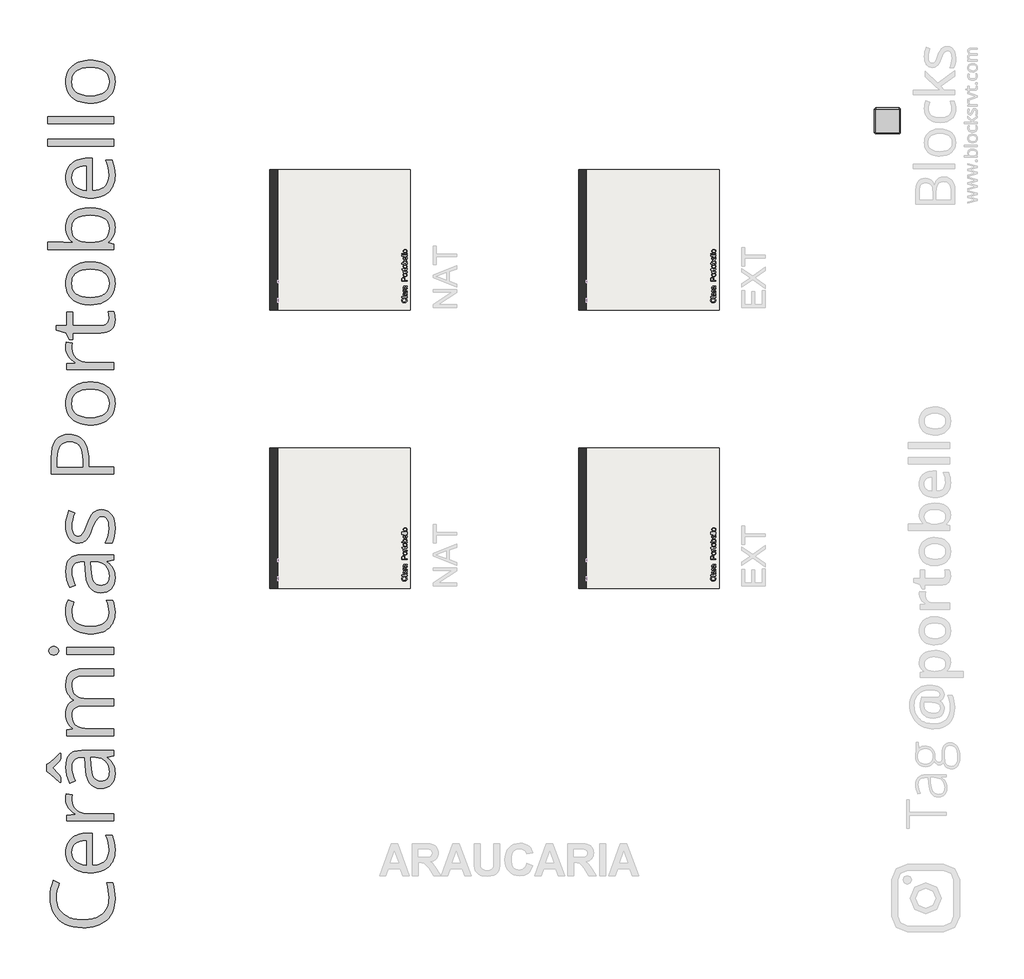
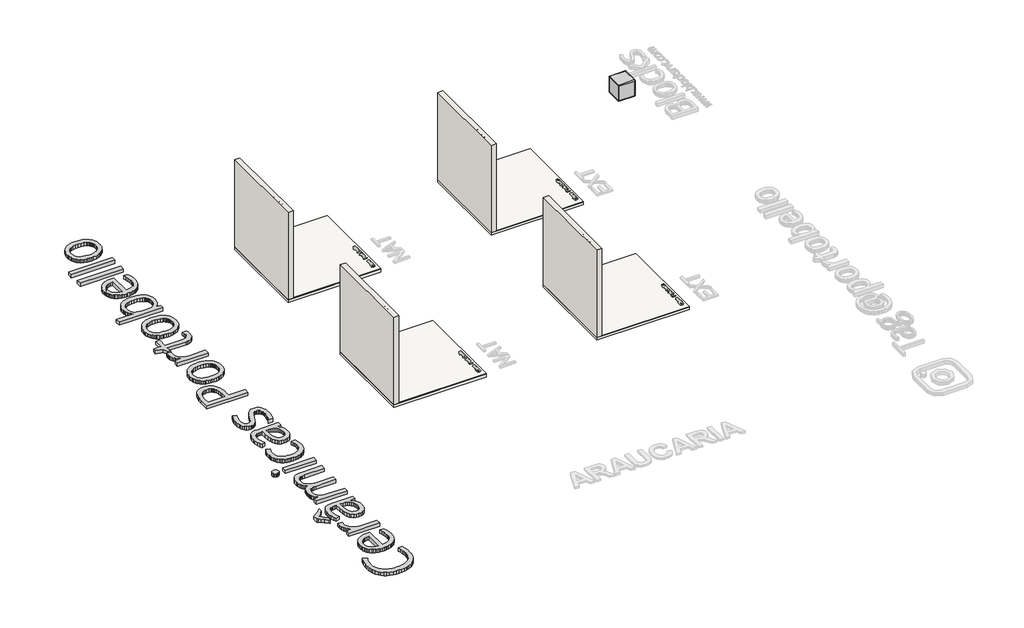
# One storey, part 1 of 6: 8 slabs, 4 walls, 1 furniture element, 1 proxy.
"""IFC4 building model written with IfcOpenShell, lengths in millimetres."""

from ifc_helpers import new_model, si_unit, frame, origin, origin_with_axes, place, context, project, spatial, polyline, outline, extrude, transform, mapped, element, save
from components import branco_22256ad2

model = new_model("IFC4")

# Units and contexts
model_context = context("Model", 3, world=origin())
ifc_project = project(units=[si_unit("LENGTHUNIT", "METRE", prefix="MILLI")], contexts=[model_context])

# Site, building, storey
site = spatial("IfcSite", under=ifc_project)
building = spatial("IfcBuilding", under=site)
storey = spatial("IfcBuildingStorey", under=building, Name="PORTOBELLO - SHOWROOM", Elevation=0.0)

# Proxy
placement = place(None, origin())
element("IfcBuildingElementProxy", 1, Name="1200mm OpenSans", ObjectType="1200mm OpenSans", at=placement, inside=storey, context=model_context, shape_type="SweptSolid", body=[
    extrude(outline(polyline([(140459.2266549, -13311.0439206), (140461.3477022, -13359.2280309), (140467.7108441, -13404.8094218), (140478.3160806, -13447.7880934), (140493.1634116, -13488.1640455), (140512.2528373, -13525.9372783), (140535.5843576, -13561.1077917), (140563.1579725, -13593.6755856), (140594.973682, -13623.6406602), (140630.479394, -13650.5128929), (140669.1230167, -13673.8021613), (140710.90455, -13693.5084652), (140755.8239939, -13709.6318049), (140803.8813485, -13722.1721801), (140855.0766136, -13731.129591), (140909.4097893, -13736.5040376), (140966.8808757, -13738.2955198), (141025.8223295, -13736.5688239), (141081.3216587, -13731.3887363), (141133.3788634, -13722.7552569), (141181.9939435, -13710.6683858), (141227.1668991, -13695.1281229), (141268.89773, -13676.1344683), (141307.1864365, -13653.6874219), (141342.0330183, -13627.7869838), (141373.0881929, -13598.6922991), (141400.0026775, -13566.6625131), (141422.7764722, -13531.6976259), (141441.409577, -13493.7976373), (141455.9019918, -13452.9625474), (141466.2537166, -13409.1923562), (141472.4647516, -13362.4870637), (141474.5350965, -13312.8466699), (141471.7183006, -13247.7448835), (141463.267913, -13178.2714299), (141449.1839336, -13104.4263091), (141429.4663624, -13026.2095211), (141546.2845212, -13026.2095211), (141565.3711301, -13092.2352165), (141579.0044222, -13165.5620469), (141587.1843974, -13246.1900122), (141589.9110558, -13334.1191124), (141587.3731227, -13398.5674022), (141579.7593235, -13459.2299182), (141567.069658, -13516.1066607), (141549.3041264, -13569.1976294), (141526.4627286, -13618.5028245), (141498.5454646, -13664.022246), (141465.5523345, -13705.7558937), (141427.4833381, -13743.7037678), (141384.7384606, -13777.5053184), (141337.717687, -13806.7999956), (141286.4210172, -13831.5877993), (141230.8484513, -13851.8687297), (141170.9999892, -13867.6427866), (141106.875631, -13878.9099701), (141038.4753766, -13885.6702802), (140965.7992261, -13887.9237169), (140874.9631925, -13883.5858513), (140789.9410257, -13870.5722543), (140710.7327255, -13848.882926), (140637.338292, -13818.5178664), (140570.8957108, -13779.9615644), (140512.5429673, -13733.6985089), (140462.2800616, -13679.7286998), (140420.1069937, -13618.0521372), (140386.7448633, -13549.6265317), (140362.9147701, -13475.4095938), (140348.6167142, -13395.4013236), (140343.8506956, -13309.6017211), (140347.8392786, -13218.1121909), (140359.8050275, -13132.5717335), (140379.7479423, -13052.9803491), (140407.6680231, -12979.3380376), (140523.4045322, -13038.4682168), (140495.3267109, -13106.6121427), (140475.2711242, -13174.7560687), (140463.2377722, -13242.8999946), (140459.2266549, -13311.0439206)])), origin_with_axes(), (0.0, 0.0, 1.0), 100.0),
    extrude(outline(polyline([(141589.9110558, -12403.179341), (141587.9843674, -12451.8028715), (141582.2043023, -12497.8011482), (141572.5708604, -12541.1741712), (141559.0840417, -12581.9219404), (141541.7438462, -12620.0444558), (141520.550274, -12655.5417175), (141495.5033251, -12688.4137255), (141466.6029993, -12718.6604796), (141434.2830834, -12745.786224), (141398.9773638, -12769.2952024), (141360.6858406, -12789.1874149), (141319.4085138, -12805.4628615), (141275.1453833, -12818.1215422), (141227.8964492, -12827.163457), (141177.6617115, -12832.5886058), (141124.4411701, -12834.3969888), (141070.6938879, -12832.7181784), (141019.7803023, -12827.6817474), (140971.7004135, -12819.2876957), (140926.4542212, -12807.5360233), (140884.0417256, -12792.4267302), (140844.4629267, -12773.9598164), (140807.7178245, -12752.1352819), (140773.8064188, -12726.9531267), (140743.3427714, -12698.9429085), (140716.9409436, -12668.6341848), (140694.6009355, -12636.0269557), (140676.322747, -12601.1212211), (140662.1063782, -12563.9169811), (140651.951829, -12524.4142357), (140645.8590996, -12482.6129848), (140643.8281897, -12438.5132285), (140645.6253055, -12397.1682986), (140651.0166528, -12358.0430038), (140660.0022317, -12321.1373442), (140672.5820421, -12286.4513197), (140688.756084, -12253.9849304), (140708.5243575, -12223.7381762), (140731.8868625, -12195.7110572), (140758.8435991, -12169.9035733), (140788.7467042, -12146.7495112), (140820.9483147, -12126.6826573), (140855.4484307, -12109.7030117), (140892.247052, -12095.8105745), (140931.3441789, -12085.0053455), (140972.7398111, -12077.2873248), (141016.4339488, -12072.6565123), (141062.426592, -12071.1129082), (141151.4824105, -12071.1129082), (141151.4824105, -12692.7008888), (141226.0260967, -12686.1997239), (141291.0152113, -12670.6622778), (141346.4497542, -12646.0885506), (141370.5840613, -12630.4130815), (141392.3297255, -12612.4785421), (141411.5966094, -12592.4483066), (141428.2945753, -12570.4857491), (141453.9837538, -12520.7636682), (141469.3972608, -12463.3122994), (141474.5350965, -12398.1316428), (141470.7267885, -12325.5033778), (141459.3018644, -12253.2807314), (141440.2603243, -12181.4637036), (141413.602168, -12110.0522944), (141533.3047258, -12110.0522944), (141559.3093854, -12180.5397946), (141576.7509855, -12247.0612461), (141586.6210382, -12318.3599834), (141589.9110558, -12403.179341)]), holes=[polyline([(140759.204149, -12439.955428), (140763.8011599, -12491.4802583), (140777.5921925, -12537.5292373), (140800.5772469, -12578.1023652), (140832.756323, -12613.1996419), (140873.0477713, -12642.2351738), (140920.3699421, -12664.6230675), (140974.7228354, -12680.3633228), (141036.1064513, -12689.4559399), (141036.1064513, -12217.4961565), (140972.9651548, -12221.1016552), (140917.6658181, -12231.9181514), (140870.2084411, -12249.9456451), (140830.5930238, -12275.1841362), (140799.3603911, -12307.1153343), (140777.0513677, -12345.2209489), (140763.6659537, -12389.5009802), (140759.204149, -12439.955428)])]), origin_with_axes(), (0.0, 0.0, 1.0), 100.0),
    extrude(outline(polyline([(140643.8281897, -11423.9258866), (140646.0816264, -11366.4181819), (140652.8419365, -11315.039825), (140771.4628447, -11334.1489683), (140762.2688229, -11387.3300745), (140759.204149, -11433.6607332), (140764.8490079, -11486.9883128), (140781.7835848, -11536.2822407), (140810.0078795, -11581.5425169), (140849.5218921, -11622.7691414), (140897.463758, -11657.0777152), (140950.9716126, -11681.5838394), (141010.0454558, -11696.2875139), (141074.6852877, -11701.1887387), (141566.835864, -11701.1887387), (141566.835864, -11837.4765906), (140666.9033816, -11837.4765906), (140666.9033816, -11724.9850303), (140828.4297246, -11709.4813858), (140828.4297246, -11702.9914881), (140786.6284737, -11676.2882632), (140749.9199898, -11647.0161204), (140718.3042728, -11615.1750597), (140691.7813228, -11580.7650812), (140670.8018271, -11544.1918035), (140655.816473, -11505.8608452), (140646.8252605, -11465.7722062), (140643.8281897, -11423.9258866)])), origin_with_axes(), (0.0, 0.0, 1.0), 100.0),
    extrude(outline(polyline([(141566.835864, -10584.5657829), (141435.2351604, -10611.9675732), (141435.2351604, -10618.8180208), (141476.833602, -10652.8561822), (141511.1309086, -10686.8267405), (141538.1270803, -10720.7296957), (141557.8221171, -10754.5650478), (141571.8610278, -10790.4735617), (141581.8888211, -10830.5960023), (141587.9054971, -10874.9323694), (141589.9110558, -10923.4826632), (141585.4379839, -10987.5929375), (141572.0187684, -11044.3570081), (141549.6534091, -11093.774875), (141518.3419061, -11135.8465383), (141478.7828247, -11169.4452795), (141431.6747304, -11193.4443804), (141377.0176231, -11207.843841), (141314.8115029, -11212.6436612), (141248.2618834, -11205.7368777), (141190.12885, -11185.0165272), (141140.4124027, -11150.4826097), (141099.1125415, -11102.1351252), (141066.2292664, -11039.9740737), (141041.7625774, -10963.9994552), (141025.7124745, -10874.2112697), (141018.0789576, -10770.6095172), (141013.0312594, -10615.9336218), (140958.9487785, -10615.9336218), (140911.2547906, -10618.8180208), (140870.2084411, -10627.4712177), (140835.8097298, -10641.8932126), (140808.0586568, -10662.0840055), (140786.6848096, -10688.6294899), (140771.4177759, -10722.1155593), (140762.2575557, -10762.5422138), (140759.204149, -10809.9094533), (140763.5307475, -10868.9044262), (140776.5105429, -10931.5950354), (140798.1435353, -10997.9812807), (140828.4297246, -11068.0631622), (140723.1491617, -11110.6080472), (140690.0236422, -11040.0304096), (140664.9203573, -10963.1431492), (140649.1012316, -10882.9208025), (140643.8281897, -10802.337906), (140648.3350631, -10726.1379438), (140661.8556834, -10660.5065998), (140684.3900504, -10605.4438739), (140699.037389, -10581.8757428), (140715.9381643, -10560.9497662), (140735.3233535, -10542.5701731), (140757.423934, -10526.6411924), (140782.2399057, -10513.1628241), (140809.7712687, -10502.1350682), (140872.9801682, -10487.4313937), (140947.0506327, -10482.5301689), (141566.835864, -10482.5301689), (141566.835864, -10584.5657829)]), holes=[polyline([(141474.5350965, -10896.4414228), (141470.1746965, -10835.1930131), (141457.0934964, -10780.8851886), (141435.2914963, -10733.517949), (141404.7686962, -10693.0912945), (141366.4039363, -10660.7544778), (141321.0760569, -10637.6567516), (141268.7850582, -10623.7981159), (141209.5309401, -10619.1785706), (141128.4072187, -10619.1785706), (141134.1760167, -10757.9902716), (141139.4941273, -10834.8099289), (141149.6796612, -10900.137059), (141164.7326184, -10953.9716618), (141184.6529988, -10996.3137375), (141210.0942992, -11028.3350731), (141241.7100162, -11051.2074557), (141279.5001497, -11064.9308852), (141323.4646998, -11069.5053617), (141358.2126938, -11066.6547643), (141388.5439519, -11058.102972), (141414.458474, -11043.8499848), (141435.9562601, -11023.8958028), (141452.8345011, -10998.8263195), (141464.8903874, -10969.2274283), (141472.1239193, -10935.0991294), (141474.5350965, -10896.4414228)])]), origin_with_axes(), (0.0, 0.0, 1.0), 100.0),
    extrude(outline(polyline([(140532.0577292, -11094.3833029), (140432.5459643, -11006.0485841), (140363.3203887, -10948.7211543), (140314.1053311, -10912.666167), (140274.62512, -10888.1487757), (140274.62512, -10752.2214737), (140315.1869807, -10727.5688761), (140366.2047877, -10689.6660708), (140435.7909131, -10630.6710978), (140532.0577292, -10542.7419976), (140551.5274223, -10542.7419976), (140551.5274223, -10640.0904633), (140523.8101508, -10678.443956), (140487.8903698, -10721.3944596), (140391.4432788, -10821.0864994), (140489.1522943, -10921.5897764), (140524.7565942, -10963.6614397), (140551.5274223, -11000.2797861), (140551.5274223, -11094.3833029), (140532.0577292, -11094.3833029)])), origin_with_axes(), (0.0, 0.0, 1.0), 100.0),
    extrude(outline(polyline([(141566.835864, -9048.9838748), (140976.2551724, -9048.9838748), (140925.3838388, -9051.8682738), (140881.2953497, -9060.5214708), (140843.989705, -9074.9434657), (140813.4669048, -9095.1342585), (140789.7269492, -9121.4093305), (140772.769838, -9154.0841627), (140762.5955712, -9193.1587552), (140759.204149, -9238.6331079), (140763.8124271, -9298.2815775), (140777.6372612, -9349.5923312), (140800.6786516, -9392.5653692), (140832.936598, -9427.2006913), (140874.7716504, -9453.8588476), (140926.5443587, -9472.9003877), (140988.2547228, -9484.3253118), (141059.9027429, -9488.1336198), (141566.835864, -9488.1336198), (141566.835864, -9624.7820216), (140976.2551724, -9624.7820216), (140925.3838388, -9627.6664206), (140881.2953497, -9636.3196175), (140843.989705, -9650.7416124), (140813.4669048, -9670.9324053), (140789.7269492, -9697.252546), (140772.769838, -9730.0625844), (140762.5955712, -9769.3625206), (140759.204149, -9815.1523544), (140764.0490379, -9875.2064426), (140778.5837047, -9926.6524026), (140802.8081492, -9969.4902343), (140818.5540382, -9987.6811021), (140836.7223716, -10003.7199379), (140881.6558995, -10029.9048724), (140938.9382606, -10048.608397), (141008.5694547, -10059.8305118), (141090.5494821, -10063.5712167), (141566.835864, -10063.5712167), (141566.835864, -10199.8590686), (140666.9033816, -10199.8590686), (140666.9033816, -10088.8097078), (140782.2793409, -10066.8161656), (140782.2793409, -10060.3262679), (140751.4410596, -10038.8848176), (140724.1857426, -10013.4998532), (140700.51339, -9984.1713744), (140680.4240018, -9950.8993815), (140664.413334, -9914.6077834), (140652.9771427, -9876.2204891), (140646.115428, -9835.7374987), (140643.8281897, -9793.1588122), (140646.1942983, -9742.5353566), (140653.2926239, -9696.4863775), (140665.1231666, -9655.011875), (140681.6859264, -9618.111849), (140702.9809032, -9585.7862994), (140729.0080972, -9558.0352264), (140759.7675082, -9534.8586299), (140795.2591363, -9516.2565099), (140795.2591363, -9509.7666122), (140762.1110824, -9487.3111154), (140732.6135959, -9460.3262109), (140706.7666769, -9428.8118986), (140684.5703253, -9392.7681785), (140666.745641, -9353.1189597), (140654.0137236, -9310.7881512), (140646.3745732, -9265.775753), (140643.8281897, -9218.0817651), (140648.7632161, -9146.2760046), (140663.5682953, -9084.0924187), (140674.6721046, -9056.6089413), (140688.2434272, -9031.5310075), (140704.2822629, -9008.8586175), (140722.7886119, -8988.5917711), (140744.010352, -8970.7192013), (140768.1953615, -8955.2296407), (140795.3436402, -8942.1230895), (140825.4551881, -8931.3995476), (140894.5680919, -8917.1014917), (140975.5340726, -8912.3354731), (141566.835864, -8912.3354731), (141566.835864, -9048.9838748)])), origin_with_axes(), (0.0, 0.0, 1.0), 100.0),
    extrude(outline(polyline([(141566.835864, -8498.4242191), (141566.835864, -8634.712071), (140666.9033816, -8634.712071), (140666.9033816, -8498.4242191), (141566.835864, -8498.4242191)])), origin_with_axes(), (0.0, 0.0, 1.0), 100.0),
    extrude(outline(polyline([(140412.7157213, -8646.249667), (140390.5081026, -8644.8074675), (140371.4778296, -8640.480869), (140355.6249024, -8633.2698716), (140342.9493209, -8623.1744751), (140326.318958, -8597.2148843), (140320.7755037, -8565.4864955), (140326.4090955, -8534.9298938), (140343.3098708, -8508.8801655), (140356.0981241, -8498.4692879), (140371.9285169, -8491.0329468), (140390.8010493, -8486.5711421), (140412.7157213, -8485.0838739), (140434.6529276, -8486.5711421), (140453.5930631, -8491.0329468), (140469.5361278, -8498.4692879), (140482.4821217, -8508.8801655), (140499.6533094, -8534.9298938), (140505.3770386, -8565.4864955), (140499.6533094, -8597.2148843), (140492.4986478, -8610.9157794), (140482.4821217, -8623.1744751), (140469.5361278, -8633.2698716), (140453.5930631, -8640.480869), (140434.6529276, -8644.8074675), (140412.7157213, -8646.249667)])), origin_with_axes(), (0.0, 0.0, 1.0), 100.0),
    extrude(outline(polyline([(141589.9110558, -7828.5225556), (141588.004085, -7876.4362535), (141582.2831726, -7921.5669571), (141572.7483185, -7963.9146664), (141559.3995228, -8003.4793813), (141542.2367855, -8040.2611019), (141521.2601066, -8074.2598282), (141496.4694861, -8105.4755602), (141467.8649239, -8133.9082978), (141435.7731684, -8159.2594607), (141400.520968, -8181.2304686), (141362.1083225, -8199.8213214), (141320.5352321, -8215.0320192), (141275.8016967, -8226.8625619), (141227.9077164, -8235.3129495), (141176.853291, -8240.3831821), (141122.6384207, -8242.0732596), (141067.0264197, -8240.3578309), (141014.665001, -8235.2115449), (140965.5541648, -8226.6344014), (140919.6939111, -8214.6264006), (140877.0842398, -8199.1875423), (140837.725151, -8180.3178267), (140801.6166446, -8158.0172537), (140768.7587206, -8132.2858234), (140739.4781274, -8103.3826808), (140714.1016134, -8071.5669714), (140692.6291784, -8036.838695), (140675.0608224, -7999.1978516), (140661.3965456, -7958.6444413), (140651.6363479, -7915.1784641), (140645.7802293, -7868.7999199), (140643.8281897, -7819.5088088), (140647.163276, -7753.9338007), (140657.168535, -7688.44893), (140671.6806674, -7630.0849194), (140688.5363739, -7585.8724912), (140801.3884841, -7628.0568263), (140784.8482587, -7675.8747532), (140771.2825697, -7727.7488662), (140762.2237542, -7778.5413295), (140759.204149, -7823.1143075), (140764.8433744, -7888.0977885), (140781.7610504, -7944.4168053), (140809.9571772, -7992.071358), (140849.4317547, -8031.0614466), (140900.1847828, -8061.3870711), (140962.2162617, -8083.0482314), (141035.5261913, -8096.0449276), (141120.1145716, -8100.3771596), (141200.7650713, -8096.1519658), (141271.4553807, -8083.4763843), (141332.1854999, -8062.3504152), (141382.9554289, -8032.7740585), (141404.4194135, -8014.8564199), (141423.0215335, -7994.9050547), (141438.7617888, -7972.9199628), (141451.6401796, -7948.9011443), (141461.6567058, -7922.8485992), (141468.8113673, -7894.7623275), (141474.5350965, -7832.4886042), (141471.492957, -7775.1837088), (141462.3665383, -7717.2027824), (141447.1558406, -7658.545825), (141425.8608637, -7599.2128365), (141544.4817718, -7599.2128365), (141564.3570836, -7647.7518631), (141578.5537348, -7702.1498252), (141587.0717256, -7762.4067227), (141589.9110558, -7828.5225556)])), origin_with_axes(), (0.0, 0.0, 1.0), 100.0),
    extrude(outline(polyline([(141566.835864, -6823.3095104), (141435.2351604, -6850.7113007), (141435.2351604, -6857.5617483), (141476.833602, -6891.5999097), (141511.1309086, -6925.570468), (141538.1270803, -6959.4734232), (141557.8221171, -6993.3087754), (141571.8610278, -7029.2172893), (141581.8888211, -7069.3397298), (141587.9054971, -7113.6760969), (141589.9110558, -7162.2263908), (141585.4379839, -7226.336665), (141572.0187684, -7283.1007356), (141549.6534091, -7332.5186025), (141518.3419061, -7374.5902658), (141478.7828247, -7408.1890071), (141431.6747304, -7432.188108), (141377.0176231, -7446.5875685), (141314.8115029, -7451.3873887), (141248.2618834, -7444.4806052), (141190.12885, -7423.7602547), (141140.4124027, -7389.2263372), (141099.1125415, -7340.8788527), (141066.2292664, -7278.7178012), (141041.7625774, -7202.7431827), (141025.7124745, -7112.9549972), (141018.0789576, -7009.3532447), (141013.0312594, -6854.6773493), (140958.9487785, -6854.6773493), (140911.2547906, -6857.5617483), (140870.2084411, -6866.2149452), (140835.8097298, -6880.6369401), (140808.0586568, -6900.827733), (140786.6848096, -6927.3732174), (140771.4177759, -6960.8592868), (140762.2575557, -7001.2859413), (140759.204149, -7048.6531808), (140763.5307475, -7107.6481538), (140776.5105429, -7170.3387629), (140798.1435353, -7236.7250082), (140828.4297246, -7306.8068897), (140723.1491617, -7349.3517747), (140690.0236422, -7278.7741371), (140664.9203573, -7201.8868768), (140649.1012316, -7121.6645301), (140643.8281897, -7041.0816335), (140648.3350631, -6964.8816713), (140661.8556834, -6899.2503273), (140684.3900504, -6844.1876014), (140699.037389, -6820.6194703), (140715.9381643, -6799.6934937), (140735.3233535, -6781.3139006), (140757.423934, -6765.3849199), (140782.2399057, -6751.9065516), (140809.7712687, -6740.8787957), (140872.9801682, -6726.1751212), (140947.0506327, -6721.2738964), (141566.835864, -6721.2738964), (141566.835864, -6823.3095104)]), holes=[polyline([(141474.5350965, -7135.1851503), (141470.1746965, -7073.9367407), (141457.0934964, -7019.6289161), (141435.2914963, -6972.2616765), (141404.7686962, -6931.8350221), (141366.4039363, -6899.4982054), (141321.0760569, -6876.4004791), (141268.7850582, -6862.5418434), (141209.5309401, -6857.9222982), (141128.4072187, -6857.9222982), (141134.1760167, -6996.7339992), (141139.4941273, -7073.5536564), (141149.6796612, -7138.8807865), (141164.7326184, -7192.7153894), (141184.6529988, -7235.057465), (141210.0942992, -7267.0788006), (141241.7100162, -7289.9511832), (141279.5001497, -7303.6746127), (141323.4646998, -7308.2490892), (141358.2126938, -7305.3984918), (141388.5439519, -7296.8466995), (141414.458474, -7282.5937123), (141435.9562601, -7262.6395303), (141452.8345011, -7237.570047), (141464.8903874, -7207.9711559), (141472.1239193, -7173.842857), (141474.5350965, -7135.1851503)])]), origin_with_axes(), (0.0, 0.0, 1.0), 100.0),
    extrude(outline(polyline([(141324.1857996, -5853.7909026), (141384.3412924, -5859.6836395), (141411.6726629, -5867.0495608), (141437.173116, -5877.3618505), (141460.8426518, -5890.6205087), (141482.6812702, -5906.8255354), (141502.6889714, -5925.9769306), (141520.8657552, -5948.0746943), (141551.0730742, -5999.9600744), (141572.6497306, -6061.3324231), (141585.5957245, -6132.1917402), (141589.9110558, -6212.5380259), (141586.3506258, -6297.5601928), (141575.6693358, -6372.7123069), (141557.8671859, -6437.9943682), (141532.9441759, -6493.4063768), (141405.309521, -6493.4063768), (141434.0183046, -6425.7131382), (141455.9667781, -6353.1524763), (141469.8930169, -6279.6003023), (141474.5350965, -6208.9325272), (141472.3943317, -6158.1513311), (141465.9720371, -6113.6121546), (141455.2682127, -6075.3149978), (141440.2828586, -6043.2598607), (141420.903303, -6017.9424993), (141397.0168739, -5999.8586698), (141368.6235714, -5989.008372), (141335.7233955, -5985.3916061), (141310.0116827, -5988.2647379), (141286.2379255, -5996.8841333), (141264.4021238, -6011.2497923), (141244.5042777, -6031.3617149), (141224.7191034, -6059.7888189), (141203.2213173, -6099.1000222), (141155.0879093, -6210.3747267), (141110.56, -6318.629826), (141072.1614385, -6390.2891132), (141034.4389081, -6436.8451155), (141013.7861607, -6455.0190825), (140991.9390919, -6469.7903601), (140968.3794111, -6481.2265514), (140942.588828, -6489.3952595), (140914.5673426, -6494.2964843), (140884.3149548, -6495.9302259), (140831.5394672, -6490.2966342), (140784.622915, -6473.3958589), (140743.5652983, -6445.2279001), (140708.3666169, -6405.7927577), (140680.131055, -6356.5326314), (140659.9627965, -6298.8897205), (140647.8618414, -6232.864025), (140643.8281897, -6158.455545), (140647.5688947, -6085.82728), (140658.7910094, -6013.9651835), (140677.4945341, -5942.8692555), (140703.6794686, -5872.5394959), (140815.0893793, -5921.5742786), (140790.639591, -5988.2760051), (140773.1754566, -6051.7327827), (140762.6969759, -6111.9446114), (140759.204149, -6168.9114913), (140761.1308374, -6214.7689283), (140766.9109025, -6254.6322236), (140776.5443444, -6288.5013773), (140790.0311631, -6316.3763893), (140806.9206712, -6338.1445879), (140826.7621814, -6353.6933011), (140849.5556937, -6363.0225291), (140875.301208, -6366.1322717), (140909.3281023, -6361.4901921), (140937.8566109, -6347.5639533), (140963.0049646, -6323.2719056), (140986.8913936, -6287.5323995), (141015.4199023, -6227.0501583), (141054.4944948, -6128.5299056), (141084.1046531, -6054.4707083), (141113.8049488, -5993.4589095), (141143.5953821, -5945.4945093), (141173.4759528, -5910.5775075), (141205.3395478, -5885.7333678), (141241.0790539, -5867.9875538), (141280.6944712, -5857.3400654), (141324.1857996, -5853.7909026)])), origin_with_axes(), (0.0, 0.0, 1.0), 100.0),
    extrude(outline(polyline([(140710.5299162, -4408.7070126), (140753.9508247, -4410.6562353), (140794.7971818, -4416.5039036), (140833.0689874, -4426.2500173), (140868.7662416, -4439.8945766), (140901.8889443, -4457.4375813), (140932.4370957, -4478.8790316), (140960.4106956, -4504.2189273), (140985.809744, -4533.4572686), (141008.414531, -4566.3292765), (141028.0053463, -4602.5701723), (141044.5821901, -4642.179956), (141058.1450622, -4685.1586275), (141068.6939628, -4731.5061869), (141076.2288918, -4781.2226342), (141080.7498492, -4834.3079694), (141082.256835, -4890.7621925), (141082.256835, -5032.4582924), (141566.835864, -5032.4582924), (141566.835864, -5171.9910932), (140366.9258875, -5171.9910932), (140366.9258875, -4859.7549034), (140372.2947004, -4754.040554), (140388.4011392, -4662.4214512), (140415.245204, -4584.8975949), (140452.8268946, -4521.4689853), (140501.1462112, -4472.1356222), (140560.2031536, -4436.8975058), (140629.9977219, -4415.7546359), (140710.5299162, -4408.7070126)]), holes=[polyline([(140966.8808757, -5032.4582924), (140966.8808757, -4906.265837), (140963.1627051, -4819.5085239), (140952.0081935, -4745.6408687), (140933.4173406, -4684.6628714), (140907.3901467, -4636.5745322), (140891.3907461, -4617.0541367), (140873.1379088, -4600.1364607), (140852.6316348, -4585.821504), (140829.8719241, -4574.1092667), (140777.5921925, -4558.4929504), (140716.2987141, -4553.2875116), (140660.9430415, -4558.1887364), (140613.1363818, -4572.8924109), (140572.8787351, -4597.3985351), (140540.1701013, -4631.7071089), (140514.8527399, -4676.3589572), (140496.7689104, -4731.8949048), (140485.9186126, -4798.3149516), (140482.3018467, -4875.6190978), (140482.3018467, -5032.4582924), (140966.8808757, -5032.4582924)])]), origin_with_axes(), (0.0, 0.0, 1.0), 100.0),
    extrude(outline(polyline([(141116.148523, -3401.3306681), (141170.4140957, -3403.0629976), (141221.620628, -3408.259986), (141269.76812, -3416.9216333), (141314.8565716, -3429.0479396), (141356.885983, -3444.6389048), (141395.856354, -3463.6945289), (141431.7676847, -3486.214812), (141464.619975, -3512.199754), (141493.9850721, -3541.2324692), (141519.4348229, -3572.8960717), (141540.9692274, -3607.1905615), (141558.5882856, -3644.1159387), (141572.2919976, -3683.6722033), (141582.0803633, -3725.8593552), (141587.9533827, -3770.6773944), (141589.9110558, -3818.126321), (141586.3168243, -3876.81708), (141575.5341296, -3932.1051496), (141557.5629719, -3983.9905297), (141532.4033511, -4032.4732204), (141500.5284889, -4076.5842439), (141462.4116071, -4115.3546224), (141418.0527055, -4148.7843559), (141367.4517843, -4176.8734444), (141311.4538822, -4199.1148647), (141250.904038, -4215.0015935), (141185.8022516, -4224.5336307), (141116.148523, -4227.7109765), (141061.8942176, -4225.992731), (141010.7214868, -4220.8379945), (140962.6303307, -4212.2467671), (140917.6207493, -4200.2190487), (140875.6927427, -4184.7548393), (140836.8463107, -4165.8541389), (140801.0814534, -4143.5169476), (140768.3981708, -4117.7432653), (140739.2020815, -4088.9161762), (140713.8988041, -4057.4187647), (140692.4883386, -4023.2510307), (140674.970685, -3986.4129741), (140661.3458433, -3946.9045951), (140651.6138135, -3904.7258936), (140645.7745957, -3859.8768696), (140643.8281897, -3812.3575231), (140645.8196644, -3766.4240326), (140651.7940885, -3722.9073531), (140661.7514619, -3681.8074844), (140675.6917847, -3643.1244266), (140693.6150569, -3606.8581796), (140715.5212785, -3573.0087435), (140741.4104494, -3541.5761183), (140771.2825697, -3512.5603039), (140804.5517459, -3486.490858), (140840.6320843, -3463.8973382), (140879.5235851, -3444.7797446), (140921.2262481, -3429.1380771), (140965.7400734, -3416.9723357), (141013.065061, -3408.2825204), (141063.2012108, -3403.0686312), (141116.148523, -3401.3306681)]), holes=[polyline([(141115.0668734, -4086.0148765), (141197.6327943, -4081.7108124), (141269.7427688, -4068.7986201), (141331.396797, -4047.2782995), (141358.3028313, -4033.2900912), (141382.594879, -4017.1498508), (141404.1433675, -3998.9251814), (141422.8187242, -3978.6836862), (141438.620949, -3956.4253652), (141451.5500421, -3932.1502183), (141461.6060034, -3905.8582455), (141468.7888329, -3877.5494469), (141474.5350965, -3814.8813722), (141468.8113673, -3752.1907631), (141461.6567058, -3723.8537965), (141451.6401796, -3697.5223886), (141438.7617888, -3673.1965394), (141423.0215335, -3650.8762488), (141404.4194135, -3630.5615169), (141382.9554289, -3612.2523437), (141358.7366179, -3596.0275994), (141331.8700188, -3581.9661544), (141270.1934561, -3560.333162), (141197.925741, -3547.3533666), (141115.0668734, -3543.0267681), (141033.0530445, -3547.3533666), (140961.5176963, -3560.333162), (140900.4608288, -3581.9661544), (140873.8618253, -3596.0275994), (140849.882442, -3612.2523437), (140828.6297171, -3630.5896849), (140810.2106888, -3650.9889207), (140794.6253572, -3673.450051), (140781.8737223, -3697.9730759), (140771.955784, -3724.5579955), (140764.8715423, -3753.2048096), (140759.204149, -3816.6841215), (140764.792672, -3879.2958604), (140771.7783258, -3907.5342391), (140781.5582411, -3933.727624), (140794.1324179, -3957.8760151), (140809.5008562, -3979.9794123), (140827.6635561, -4000.0378158), (140848.6205174, -4018.0512255), (140872.3435724, -4033.9802062), (140898.8045529, -4047.7853228), (140959.9402907, -4069.0239637), (141032.0277308, -4081.7671483), (141115.0668734, -4086.0148765)])]), origin_with_axes(), (0.0, 0.0, 1.0), 100.0),
    extrude(outline(polyline([(140643.8281897, -2747.6537489), (140646.0816264, -2690.1460442), (140652.8419365, -2638.7676873), (140771.4628447, -2657.8768305), (140762.2688229, -2711.0579368), (140759.204149, -2757.3885954), (140764.8490079, -2810.716175), (140781.7835848, -2860.0101029), (140810.0078795, -2905.2703792), (140849.5218921, -2946.4970037), (140897.463758, -2980.8055775), (140950.9716126, -3005.3117017), (141010.0454558, -3020.0153762), (141074.6852877, -3024.916601), (141566.835864, -3024.916601), (141566.835864, -3161.2044529), (140666.9033816, -3161.2044529), (140666.9033816, -3048.7128926), (140828.4297246, -3033.2092481), (140828.4297246, -3026.7193504), (140786.6284737, -3000.0161254), (140749.9199898, -2970.7439826), (140718.3042728, -2938.902922), (140691.7813228, -2904.4929435), (140670.8018271, -2867.9196658), (140655.816473, -2829.5887074), (140646.8252605, -2789.5000685), (140643.8281897, -2747.6537489)])), origin_with_axes(), (0.0, 0.0, 1.0), 100.0),
    extrude(outline(polyline([(141474.5350965, -2175.1005509), (141469.1268484, -2104.4327759), (141457.9498024, -2050.350295), (141564.6725647, -2050.350295), (141574.5876862, -2078.0224977), (141582.7000584, -2116.3309217), (141588.1083064, -2157.7040196), (141589.9110558, -2194.5702441), (141585.6295261, -2256.4270816), (141572.7849369, -2310.0363408), (141551.3772882, -2355.3980217), (141521.40658, -2392.5121242), (141482.8728123, -2421.3786484), (141435.7759852, -2441.9975942), (141380.1160986, -2454.3689617), (141315.8931525, -2458.4927509), (140782.2793409, -2458.4927509), (140782.2793409, -2589.0118048), (140714.8565147, -2589.0118048), (140656.4474353, -2459.2138507), (140459.2266549, -2401.1653211), (140459.2266549, -2321.8443491), (140666.9033816, -2321.8443491), (140666.9033816, -2056.8401927), (140782.2793409, -2056.8401927), (140782.2793409, -2321.8443491), (141307.6005054, -2321.8443491), (141345.6272498, -2319.3993703), (141378.9443115, -2312.0644338), (141407.5516905, -2299.8395397), (141431.4493867, -2282.724688), (141450.2993848, -2261.3283064), (141463.7636691, -2236.2588231), (141471.8422397, -2207.5162379), (141474.5350965, -2175.1005509)])), origin_with_axes(), (0.0, 0.0, 1.0), 100.0),
    extrude(outline(polyline([(141116.148523, -1093.8114826), (141170.4140957, -1095.543812), (141221.620628, -1100.7408004), (141269.76812, -1109.4024478), (141314.8565716, -1121.528754), (141356.885983, -1137.1197192), (141395.856354, -1156.1753434), (141431.7676847, -1178.6956264), (141464.619975, -1204.6805684), (141493.9850721, -1233.7132836), (141519.4348229, -1265.3768861), (141540.9692274, -1299.6713759), (141558.5882856, -1336.5967531), (141572.2919976, -1376.1530177), (141582.0803633, -1418.3401696), (141587.9533827, -1463.1582089), (141589.9110558, -1510.6071355), (141586.3168243, -1569.2978944), (141575.5341296, -1624.585964), (141557.5629719, -1676.4713441), (141532.4033511, -1724.9540348), (141500.5284889, -1769.0650583), (141462.4116071, -1807.8354368), (141418.0527055, -1841.2651703), (141367.4517843, -1869.3542588), (141311.4538822, -1891.5956791), (141250.904038, -1907.4824079), (141185.8022516, -1917.0144452), (141116.148523, -1920.1917909), (141061.8942176, -1918.4735454), (141010.7214868, -1913.318809), (140962.6303307, -1904.7275815), (140917.6207493, -1892.6998631), (140875.6927427, -1877.2356537), (140836.8463107, -1858.3349534), (140801.0814534, -1835.997762), (140768.3981708, -1810.2240797), (140739.2020815, -1781.3969907), (140713.8988041, -1749.8995791), (140692.4883386, -1715.7318451), (140674.970685, -1678.8937886), (140661.3458433, -1639.3854095), (140651.6138135, -1597.206708), (140645.7745957, -1552.357684), (140643.8281897, -1504.8383375), (140645.8196644, -1458.9048471), (140651.7940885, -1415.3881675), (140661.7514619, -1374.2882988), (140675.6917847, -1335.605241), (140693.6150569, -1299.338994), (140715.5212785, -1265.4895579), (140741.4104494, -1234.0569327), (140771.2825697, -1205.0411183), (140804.5517459, -1178.9716724), (140840.6320843, -1156.3781527), (140879.5235851, -1137.260559), (140921.2262481, -1121.6188915), (140965.7400734, -1109.4531501), (141013.065061, -1100.7633348), (141063.2012108, -1095.5494456), (141116.148523, -1093.8114826)]), holes=[polyline([(141115.0668734, -1778.4956909), (141197.6327943, -1774.1916268), (141269.7427688, -1761.2794345), (141331.396797, -1739.759114), (141358.3028313, -1725.7709056), (141382.594879, -1709.6306652), (141404.1433675, -1691.4059959), (141422.8187242, -1671.1645007), (141438.620949, -1648.9061796), (141451.5500421, -1624.6310327), (141461.6060034, -1598.33906), (141468.7888329, -1570.0302614), (141474.5350965, -1507.3621866), (141468.8113673, -1444.6715775), (141461.6567058, -1416.3346109), (141451.6401796, -1390.003203), (141438.7617888, -1365.6773538), (141423.0215335, -1343.3570632), (141404.4194135, -1323.0423314), (141382.9554289, -1304.7331581), (141358.7366179, -1288.5084139), (141331.8700188, -1274.4469688), (141270.1934561, -1252.8139765), (141197.925741, -1239.834181), (141115.0668734, -1235.5075826), (141033.0530445, -1239.834181), (140961.5176963, -1252.8139765), (140900.4608288, -1274.4469688), (140873.8618253, -1288.5084139), (140849.882442, -1304.7331581), (140828.6297171, -1323.0704993), (140810.2106888, -1343.4697351), (140794.6253572, -1365.9308654), (140781.8737223, -1390.4538904), (140771.955784, -1417.0388099), (140764.8715423, -1445.685624), (140759.204149, -1509.164936), (140764.792672, -1571.7766748), (140771.7783258, -1600.0150535), (140781.5582411, -1626.2084384), (140794.1324179, -1650.3568295), (140809.5008562, -1672.4602268), (140827.6635561, -1692.5186302), (140848.6205174, -1710.5320399), (140872.3435724, -1726.4610206), (140898.8045529, -1740.2661372), (140959.9402907, -1761.5047782), (141032.0277308, -1774.2479627), (141115.0668734, -1778.4956909)])]), origin_with_axes(), (0.0, 0.0, 1.0), 100.0),
    extrude(outline(polyline([(140643.8281897, -432.563016), (140645.7520613, -389.0181684), (140651.5236761, -347.9802692), (140661.143034, -309.4493184), (140674.6101351, -273.4253159), (140691.9249794, -239.9082617), (140713.0875668, -208.8981558), (140738.0978975, -180.3949983), (140766.9559713, -154.3987891), (140799.3294063, -131.2024751), (140834.8858207, -111.0990029), (140873.6252145, -94.0883725), (140915.5475876, -80.1705841), (140960.65294, -69.3456375), (141008.9412718, -61.6135328), (141060.4125829, -56.97427), (141115.0668734, -55.4278491), (141169.8310189, -56.988354), (141221.4516202, -61.6698687), (141269.9286773, -69.4723933), (141315.2621902, -80.3959278), (141357.4521589, -94.440472), (141396.4985834, -111.6060261), (141432.4014637, -131.89259), (141465.1607998, -155.3001638), (141494.3991411, -181.4738311), (141519.7390368, -210.0586757), (141541.1804871, -241.0546976), (141558.7234918, -274.4618968), (141572.3680511, -310.2802732), (141582.1141648, -348.5098269), (141587.9618331, -389.1505578), (141589.9110558, -432.2024661), (141587.8491612, -475.5923898), (141581.6634775, -517.0668924), (141571.3540045, -556.6259737), (141556.9207425, -594.2696339), (141538.2059506, -629.457048), (141515.0518885, -661.6473914), (141487.458556, -690.8406639), (141455.4259533, -717.0368656), (141455.4259533, -727.132262), (141566.835864, -755.9762518), (141566.835864, -853.6852673), (140297.7003119, -853.6852673), (140297.7003119, -717.3974154), (140598.7594556, -717.3974154), (140694.8459967, -719.0198899), (140780.4765915, -723.8873131), (140780.4765915, -717.3974154), (140748.4496223, -691.8885119), (140720.6929157, -663.4952095), (140697.2064717, -632.217508), (140677.9902902, -598.0554075), (140663.0443712, -561.0089081), (140652.3687148, -521.0780097), (140645.963321, -478.2627123), (140643.8281897, -432.563016)]), holes=[polyline([(140759.204149, -451.6721592), (140764.296916, -517.3936407), (140779.5752168, -573.2225351), (140791.0339425, -597.4272621), (140805.0390516, -619.1588423), (140821.5905442, -638.4172757), (140840.6884202, -655.2025624), (140862.8002679, -669.7794811), (140888.3936753, -682.4128106), (140950.0251692, -701.8487022), (141025.5829019, -713.5102371), (141115.0668734, -717.3974154), (141204.8099902, -713.3975653), (141280.7846087, -701.3980148), (141342.9907289, -681.3987641), (141368.9306022, -668.3992511), (141391.4283509, -653.399813), (141410.9064944, -636.1976406), (141427.7875521, -616.5899244), (141442.071524, -594.5766646), (141453.7584101, -570.1578611), (141469.3409249, -514.1036231), (141474.5350965, -448.4272104), (141468.7099626, -388.8576111), (141461.4285453, -362.1234014), (141451.234561, -337.4229183), (141438.1280098, -314.7561618), (141422.1088916, -294.123132), (141403.1772065, -275.5238288), (141381.3329544, -258.9582522), (141329.6503836, -231.748004), (141267.8048132, -212.3121124), (141195.7962433, -200.6505775), (141113.6246739, -196.7633992), (141029.8982331, -200.6505775), (140957.5516477, -212.3121124), (140896.5849177, -231.748004), (140846.998043, -258.9582522), (140826.4213491, -275.5745311), (140808.5882144, -294.3259413), (140793.4986389, -315.2124828), (140781.1526225, -338.2341555), (140771.5501653, -363.3909595), (140764.6912674, -390.6828948), (140759.204149, -451.6721592)])]), origin_with_axes(), (0.0, 0.0, 1.0), 100.0),
    extrude(outline(polyline([(141589.9110558, 565.0784819), (141587.9843674, 516.4549514), (141582.2043023, 470.4566747), (141572.5708604, 427.0836517), (141559.0840417, 386.3358825), (141541.7438462, 348.2133671), (141520.550274, 312.7161054), (141495.5033251, 279.8440974), (141466.6029993, 249.5973433), (141434.2830834, 222.4715989), (141398.9773638, 198.9626205), (141360.6858406, 179.070408), (141319.4085138, 162.7949614), (141275.1453833, 150.1362807), (141227.8964492, 141.0943659), (141177.6617115, 135.6692171), (141124.4411701, 133.8608341), (141070.6938879, 135.5396445), (141019.7803023, 140.5760755), (140971.7004135, 148.9701272), (140926.4542212, 160.7217996), (140884.0417256, 175.8310928), (140844.4629267, 194.2980065), (140807.7178245, 216.122541), (140773.8064188, 241.3046962), (140743.3427714, 269.3149144), (140716.9409436, 299.6236381), (140694.6009355, 332.2308672), (140676.322747, 367.1366018), (140662.1063782, 404.3408418), (140651.951829, 443.8435872), (140645.8590996, 485.6448381), (140643.8281897, 529.7445944), (140645.6253055, 571.0895243), (140651.0166528, 610.2148191), (140660.0022317, 647.1204788), (140672.5820421, 681.8065032), (140688.756084, 714.2728926), (140708.5243575, 744.5196467), (140731.8868625, 772.5467657), (140758.8435991, 798.3542496), (140788.7467042, 821.5083117), (140820.9483147, 841.5751656), (140855.4484307, 858.5548112), (140892.247052, 872.4472484), (140931.3441789, 883.2524774), (140972.7398111, 890.9704982), (141016.4339488, 895.6013106), (141062.426592, 897.1449147), (141151.4824105, 897.1449147), (141151.4824105, 275.5569341), (141226.0260967, 282.058099), (141291.0152113, 297.5955451), (141346.4497542, 322.1692724), (141370.5840613, 337.8447414), (141392.3297255, 355.7792808), (141411.5966094, 375.8095163), (141428.2945753, 397.7720738), (141453.9837538, 447.4941547), (141469.3972608, 504.9455235), (141474.5350965, 570.1261801), (141470.7267885, 642.7544451), (141459.3018644, 714.9770915), (141440.2603243, 786.7941193), (141413.602168, 858.2055285), (141533.3047258, 858.2055285), (141559.3093854, 787.7180283), (141576.7509855, 721.1965768), (141586.6210382, 649.8978395), (141589.9110558, 565.0784819)]), holes=[polyline([(140759.204149, 528.3023949), (140763.8011599, 476.7775647), (140777.5921925, 430.7285856), (140800.5772469, 390.1554577), (140832.756323, 355.0581811), (140873.0477713, 326.0226491), (140920.3699421, 303.6347555), (140974.7228354, 287.8945001), (141036.1064513, 278.801883), (141036.1064513, 750.7616664), (140972.9651548, 747.1561677), (140917.6658181, 736.3396715), (140870.2084411, 718.3121778), (140830.5930238, 693.0736868), (140799.3603911, 661.1424886), (140777.0513677, 623.036874), (140763.6659537, 578.7568427), (140759.204149, 528.3023949)])]), origin_with_axes(), (0.0, 0.0, 1.0), 100.0),
    extrude(outline(polyline([(141566.835864, 1262.3819358), (141566.835864, 1126.0940839), (140297.7003119, 1126.0940839), (140297.7003119, 1262.3819358), (141566.835864, 1262.3819358)])), origin_with_axes(), (0.0, 0.0, 1.0), 100.0),
    extrude(outline(polyline([(141566.835864, 1700.8105811), (141566.835864, 1564.5227292), (140297.7003119, 1564.5227292), (140297.7003119, 1700.8105811), (141566.835864, 1700.8105811)])), origin_with_axes(), (0.0, 0.0, 1.0), 100.0),
    extrude(outline(polyline([(141116.148523, 2782.8207492), (141170.4140957, 2781.0884197), (141221.620628, 2775.8914313), (141269.76812, 2767.229784), (141314.8565716, 2755.1034777), (141356.885983, 2739.5125125), (141395.856354, 2720.4568884), (141431.7676847, 2697.9366053), (141464.619975, 2671.9516633), (141493.9850721, 2642.9189482), (141519.4348229, 2611.2553457), (141540.9692274, 2576.9608558), (141558.5882856, 2540.0354786), (141572.2919976, 2500.4792141), (141582.0803633, 2458.2920622), (141587.9533827, 2413.4740229), (141589.9110558, 2366.0250963), (141586.3168243, 2307.3343373), (141575.5341296, 2252.0462678), (141557.5629719, 2200.1608876), (141532.4033511, 2151.6781969), (141500.5284889, 2107.5671735), (141462.4116071, 2068.7967949), (141418.0527055, 2035.3670614), (141367.4517843, 2007.2779729), (141311.4538822, 1985.0365526), (141250.904038, 1969.1498239), (141185.8022516, 1959.6177866), (141116.148523, 1956.4404409), (141061.8942176, 1958.1586863), (141010.7214868, 1963.3134228), (140962.6303307, 1971.9046502), (140917.6207493, 1983.9323687), (140875.6927427, 1999.396578), (140836.8463107, 2018.2972784), (140801.0814534, 2040.6344697), (140768.3981708, 2066.408152), (140739.2020815, 2095.2352411), (140713.8988041, 2126.7326526), (140692.4883386, 2160.9003867), (140674.970685, 2197.7384432), (140661.3458433, 2237.2468222), (140651.6138135, 2279.4255237), (140645.7745957, 2324.2745477), (140643.8281897, 2371.7938943), (140645.8196644, 2417.7273847), (140651.7940885, 2461.2440642), (140661.7514619, 2502.3439329), (140675.6917847, 2541.0269908), (140693.6150569, 2577.2932377), (140715.5212785, 2611.1426738), (140741.4104494, 2642.5752991), (140771.2825697, 2671.5911134), (140804.5517459, 2697.6605593), (140840.6320843, 2720.2540791), (140879.5235851, 2739.3716727), (140921.2262481, 2755.0133403), (140965.7400734, 2767.1790817), (141013.065061, 2775.868897), (141063.2012108, 2781.0827861), (141116.148523, 2782.8207492)]), holes=[polyline([(141115.0668734, 2098.1365408), (141197.6327943, 2102.4406049), (141269.7427688, 2115.3527973), (141331.396797, 2136.8731178), (141358.3028313, 2150.8613261), (141382.594879, 2167.0015665), (141404.1433675, 2185.2262359), (141422.8187242, 2205.4677311), (141438.620949, 2227.7260521), (141451.5500421, 2252.001199), (141461.6060034, 2278.2931718), (141468.7888329, 2306.6019704), (141474.5350965, 2369.2700451), (141468.8113673, 2431.9606543), (141461.6567058, 2460.2976208), (141451.6401796, 2486.6290287), (141438.7617888, 2510.954878), (141423.0215335, 2533.2751685), (141404.4194135, 2553.5899004), (141382.9554289, 2571.8990736), (141358.7366179, 2588.1238179), (141331.8700188, 2602.1852629), (141270.1934561, 2623.8182553), (141197.925741, 2636.7980507), (141115.0668734, 2641.1246492), (141033.0530445, 2636.7980507), (140961.5176963, 2623.8182553), (140900.4608288, 2602.1852629), (140873.8618253, 2588.1238179), (140849.882442, 2571.8990736), (140828.6297171, 2553.5617324), (140810.2106888, 2533.1624967), (140794.6253572, 2510.7013663), (140781.8737223, 2486.1783414), (140771.955784, 2459.5934219), (140764.8715423, 2430.9466078), (140759.204149, 2367.4672958), (140764.792672, 2304.8555569), (140771.7783258, 2276.6171782), (140781.5582411, 2250.4237933), (140794.1324179, 2226.2754023), (140809.5008562, 2204.172005), (140827.6635561, 2184.1136015), (140848.6205174, 2166.1001919), (140872.3435724, 2150.1712111), (140898.8045529, 2136.3660945), (140959.9402907, 2115.1274536), (141032.0277308, 2102.384269), (141115.0668734, 2098.1365408)])]), origin_with_axes(), (0.0, 0.0, 1.0), 100.0),
])

# Furniture
branco_shape = branco_22256ad2(model_context)
element("IfcFurniture", 2, ObjectType="Blks_Mob_Blocks Revit_Cubo : Branco", at=placement, inside=storey, context=model_context, shape_type="MappedRepresentation", body=[
    mapped(branco_shape, transform((156426.4672992, 1617.7839604, 0.0), x_axis=(1.0, 0.0, 0.0), y_axis=(0.0, 1.0, 0.0), z_axis=(0.0, 0.0, 1.0))),
])

# Slabs
element("IfcSlab", 3, ObjectType="PORTOBELLO - ARAUCARIA - CLARA - 20X120 - EXT - RET - COMPOSIÇÃO 01", at=placement, inside=storey, context=model_context, shape_type="SweptSolid", body=[
    extrude(outline(polyline([(153192.4628922, -7371.6549396), (150642.4628922, -7371.6549396), (150642.4628922, -4671.6549396), (153192.4628922, -4671.6549396), (153192.4628922, -7371.6549396)])), origin_with_axes(), (0.0, 0.0, 1.0), 17.0),
])
element("IfcSlab", 4, ObjectType="PORTOBELLO - ARAUCARIA - CLARA - 20X120 - NAT - RET - COMPOSIÇÃO 01", at=placement, inside=storey, context=model_context, shape_type="SweptSolid", body=[
    extrude(outline(polyline([(147262.4628922, -7371.6549396), (144712.4628922, -7371.6549396), (144712.4628922, -4671.6549396), (147262.4628922, -4671.6549396), (147262.4628922, -7371.6549396)])), origin_with_axes(), (0.0, 0.0, 1.0), 17.0),
])
element("IfcSlab", 5, ObjectType="PORTOBELLO - LAJE", at=placement, inside=storey, context=model_context, shape_type="SweptSolid", body=[
    extrude(outline(polyline([(153192.4628922, -4671.6549396), (153192.4628922, -7371.6549396), (150492.4628922, -7371.6549396), (150492.4628922, -4671.6549396), (153192.4628922, -4671.6549396)])), frame((0.0, 0.0, -80.0), z_axis=(0.0, 0.0, 1.0), x_axis=(1.0, 0.0, 0.0)), (0.0, 0.0, 1.0), 80.0),
])
element("IfcSlab", 6, ObjectType="PORTOBELLO - LAJE", at=placement, inside=storey, context=model_context, shape_type="SweptSolid", body=[
    extrude(outline(polyline([(147262.4628922, -4671.6549396), (147262.4628922, -7371.6549396), (144562.4628922, -7371.6549396), (144562.4628922, -4671.6549396), (147262.4628922, -4671.6549396)])), frame((0.0, 0.0, -80.0), z_axis=(0.0, 0.0, 1.0), x_axis=(1.0, 0.0, 0.0)), (0.0, 0.0, 1.0), 80.0),
])
element("IfcSlab", 7, ObjectType="PORTOBELLO - ARAUCARIA - CLARA - 20X120 - EXT - RET - COMPOSIÇÃO 02", at=placement, inside=storey, context=model_context, shape_type="SweptSolid", body=[
    extrude(outline(polyline([(153192.4628922, -2021.6549396), (150642.4628922, -2021.6549396), (150642.4628922, 678.3450604), (153192.4628922, 678.3450604), (153192.4628922, -2021.6549396)])), origin_with_axes(), (0.0, 0.0, 1.0), 17.0),
])
element("IfcSlab", 8, ObjectType="PORTOBELLO - LAJE", at=placement, inside=storey, context=model_context, shape_type="SweptSolid", body=[
    extrude(outline(polyline([(153192.4628922, 678.3450604), (153192.4628922, -2021.6549396), (150492.4628922, -2021.6549396), (150492.4628922, 678.3450604), (153192.4628922, 678.3450604)])), frame((0.0, 0.0, -80.0), z_axis=(0.0, 0.0, 1.0), x_axis=(1.0, 0.0, 0.0)), (0.0, 0.0, 1.0), 80.0),
])
element("IfcSlab", 9, ObjectType="PORTOBELLO - ARAUCARIA - CLARA - 20X120 - NAT - RET - COMPOSIÇÃO 02", at=placement, inside=storey, context=model_context, shape_type="SweptSolid", body=[
    extrude(outline(polyline([(147262.4628922, -2021.6549396), (144712.4628922, -2021.6549396), (144712.4628922, 678.3450604), (147262.4628922, 678.3450604), (147262.4628922, -2021.6549396)])), origin_with_axes(), (0.0, 0.0, 1.0), 17.0),
])
element("IfcSlab", 10, ObjectType="PORTOBELLO - LAJE", at=placement, inside=storey, context=model_context, shape_type="SweptSolid", body=[
    extrude(outline(polyline([(147262.4628922, 678.3450604), (147262.4628922, -2021.6549396), (144562.4628922, -2021.6549396), (144562.4628922, 678.3450604), (147262.4628922, 678.3450604)])), frame((0.0, 0.0, -80.0), z_axis=(0.0, 0.0, 1.0), x_axis=(1.0, 0.0, 0.0)), (0.0, 0.0, 1.0), 80.0),
])

# Walls
element("IfcWall", 11, ObjectType="PORTOBELLO - ARAUCARIA - CLARA - 20X120 - EXT - RET - COMPOSIÇÃO 01", at=placement, inside=storey, context=model_context, shape_type="SweptSolid", body=[
    extrude(outline(polyline([(150642.4628922, -4671.6549396), (150642.4628922, -7371.6549396), (150492.4628922, -7371.6549396), (150492.4628922, -4671.6549396), (150642.4628922, -4671.6549396)])), origin_with_axes(), (0.0, 0.0, 1.0), 2700.0),
])
element("IfcWall", 12, ObjectType="PORTOBELLO - ARAUCARIA - CLARA - 20X120 - NAT - RET - COMPOSIÇÃO 01", at=placement, inside=storey, context=model_context, shape_type="SweptSolid", body=[
    extrude(outline(polyline([(144712.4628922, -4671.6549396), (144712.4628922, -7371.6549396), (144562.4628922, -7371.6549396), (144562.4628922, -4671.6549396), (144712.4628922, -4671.6549396)])), origin_with_axes(), (0.0, 0.0, 1.0), 2700.0),
])
element("IfcWall", 13, ObjectType="PORTOBELLO - ARAUCARIA - CLARA - 20X120 - EXT - RET - COMPOSIÇÃO 02", at=placement, inside=storey, context=model_context, shape_type="SweptSolid", body=[
    extrude(outline(polyline([(150642.4628922, 678.3450604), (150642.4628922, -2021.6549396), (150492.4628922, -2021.6549396), (150492.4628922, 678.3450604), (150642.4628922, 678.3450604)])), origin_with_axes(), (0.0, 0.0, 1.0), 2700.0),
])
element("IfcWall", 14, ObjectType="PORTOBELLO - ARAUCARIA - CLARA - 20X120 - NAT - RET - COMPOSIÇÃO 02", at=placement, inside=storey, context=model_context, shape_type="SweptSolid", body=[
    extrude(outline(polyline([(144712.4628922, 678.3450604), (144712.4628922, -2021.6549396), (144562.4628922, -2021.6549396), (144562.4628922, 678.3450604), (144712.4628922, 678.3450604)])), origin_with_axes(), (0.0, 0.0, 1.0), 2700.0),
])

save(model, "model.ifc")
